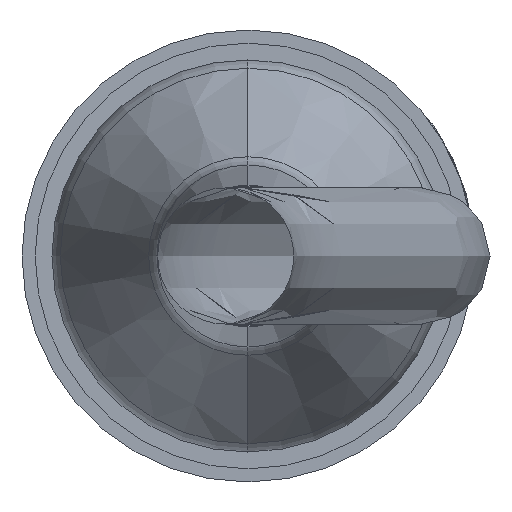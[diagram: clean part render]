
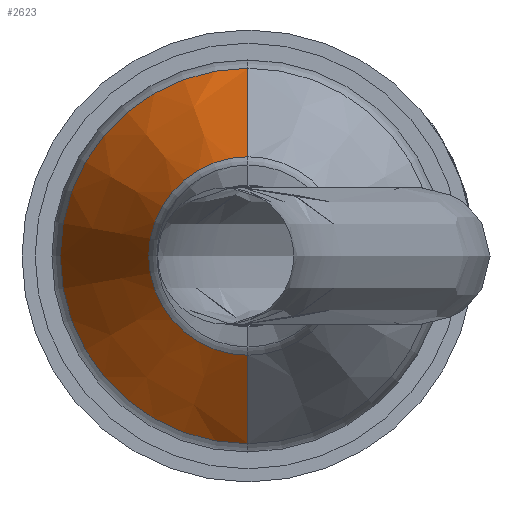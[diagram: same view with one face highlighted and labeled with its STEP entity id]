
A CAD part, left-side view. The second image highlights one B-rep face of the part: STEP entity #2623.
In plain terms, the highlighted conical face has half-angle 24.702 degrees and reference radius 21.6 mm.
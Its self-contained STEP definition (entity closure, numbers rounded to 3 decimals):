
#2545 = VERTEX_POINT ( 'NONE', #11977 ) ;
#2546 = ORIENTED_EDGE ( 'NONE', *, *, #2547, .T. ) ;
#2547 = EDGE_CURVE ( 'NONE', #2545, #2620, #11976, .T. ) ;
#2549 = ORIENTED_EDGE ( 'NONE', *, *, #2566, .T. ) ;
#2550 = ORIENTED_EDGE ( 'NONE', *, *, #2605, .F. ) ;
#2564 = VERTEX_POINT ( 'NONE', #12006 ) ;
#2566 = EDGE_CURVE ( 'NONE', #2620, #2564, #12005, .T. ) ;
#2605 = EDGE_CURVE ( 'NONE', #2627, #2564, #12232, .T. ) ;
#2620 = VERTEX_POINT ( 'NONE', #12258 ) ;
#2623 = ADVANCED_FACE ( 'NONE', ( #12252 ), #12251, .T. ) ;
#2624 = EDGE_LOOP ( 'NONE', ( #2625, #2546, #2549, #2550 ) ) ;
#2625 = ORIENTED_EDGE ( 'NONE', *, *, #2626, .T. ) ;
#2626 = EDGE_CURVE ( 'NONE', #2627, #2545, #12245, .T. ) ;
#2627 = VERTEX_POINT ( 'NONE', #12241 ) ;
#11973 = DIRECTION ( 'NONE',  ( 0.908, 0., 0.418 ) ) ;
#11974 = VECTOR ( 'NONE', #11973, 1000. ) ;
#11975 = CARTESIAN_POINT ( 'NONE',  ( -347.741, 0., 21.6 ) ) ;
#11976 = LINE ( 'NONE', #11975, #11974 ) ;
#11977 = CARTESIAN_POINT ( 'NONE',  ( -370.921, 0., 10.937 ) ) ;
#12001 = DIRECTION ( 'NONE',  ( 0., 0., 1. ) ) ;
#12002 = DIRECTION ( 'NONE',  ( -1., 0., 0. ) ) ;
#12003 = CARTESIAN_POINT ( 'NONE',  ( -349.73, 0., 0. ) ) ;
#12004 = AXIS2_PLACEMENT_3D ( 'NONE', #12003, #12002, #12001 ) ;
#12005 = CIRCLE ( 'NONE', #12004, 20.685 ) ;
#12006 = CARTESIAN_POINT ( 'NONE',  ( -349.73, 0., -20.685 ) ) ;
#12229 = DIRECTION ( 'NONE',  ( 0.908, 0., -0.418 ) ) ;
#12230 = VECTOR ( 'NONE', #12229, 1000. ) ;
#12231 = CARTESIAN_POINT ( 'NONE',  ( -347.741, 0., -21.6 ) ) ;
#12232 = LINE ( 'NONE', #12231, #12230 ) ;
#12241 = CARTESIAN_POINT ( 'NONE',  ( -370.921, 0., -10.937 ) ) ;
#12242 = DIRECTION ( 'NONE',  ( 0., 0., -1. ) ) ;
#12243 = DIRECTION ( 'NONE',  ( 1., 0., 0. ) ) ;
#12244 = AXIS2_PLACEMENT_3D ( 'NONE', #12250, #12243, #12242 ) ;
#12245 = CIRCLE ( 'NONE', #12244, 10.937 ) ;
#12246 = DIRECTION ( 'NONE',  ( 0., 0., -1. ) ) ;
#12247 = DIRECTION ( 'NONE',  ( 1., 0., 0. ) ) ;
#12248 = CARTESIAN_POINT ( 'NONE',  ( -347.741, 0., 0. ) ) ;
#12249 = AXIS2_PLACEMENT_3D ( 'NONE', #12248, #12247, #12246 ) ;
#12250 = CARTESIAN_POINT ( 'NONE',  ( -370.921, 0., 0. ) ) ;
#12251 = CONICAL_SURFACE ( 'NONE', #12249, 21.6, 0.431 ) ;
#12252 = FACE_OUTER_BOUND ( 'NONE', #2624, .T. ) ;
#12258 = CARTESIAN_POINT ( 'NONE',  ( -349.73, 0., 20.685 ) ) ;
